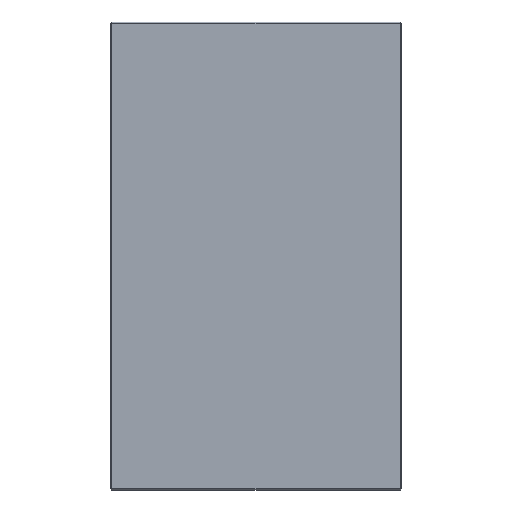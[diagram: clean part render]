
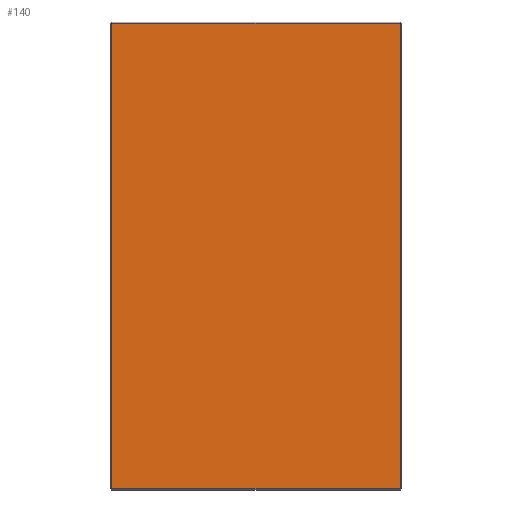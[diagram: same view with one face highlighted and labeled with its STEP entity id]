
A CAD part, front view. The second image highlights one B-rep face of the part: STEP entity #140.
In plain terms, the highlighted planar face has unit normal (0, -1, 0).
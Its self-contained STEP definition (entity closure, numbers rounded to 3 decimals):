
#2 = EDGE_CURVE ( 'NONE', #399, #366, #638, .T. ) ;
#9 = LINE ( 'NONE', #186, #394 ) ;
#10 = DIRECTION ( 'NONE',  ( 0., 0., 1. ) ) ;
#24 = FACE_OUTER_BOUND ( 'NONE', #358, .T. ) ;
#33 = PLANE ( 'NONE',  #517 ) ;
#35 = VERTEX_POINT ( 'NONE', #212 ) ;
#46 = VECTOR ( 'NONE', #10, 1000. ) ;
#47 = CARTESIAN_POINT ( 'NONE',  ( 0., 0., 0. ) ) ;
#70 = LINE ( 'NONE', #437, #171 ) ;
#71 = ORIENTED_EDGE ( 'NONE', *, *, #386, .T. ) ;
#127 = ORIENTED_EDGE ( 'NONE', *, *, #492, .T. ) ;
#129 = DIRECTION ( 'NONE',  ( 1., 0., 0. ) ) ;
#140 = ADVANCED_FACE ( 'NONE', ( #24 ), #33, .F. ) ;
#164 = LINE ( 'NONE', #370, #624 ) ;
#171 = VECTOR ( 'NONE', #129, 1000. ) ;
#186 = CARTESIAN_POINT ( 'NONE',  ( 0., 0., 197. ) ) ;
#207 = DIRECTION ( 'NONE',  ( 0., 0., -1. ) ) ;
#212 = CARTESIAN_POINT ( 'NONE',  ( -122., 0., 197. ) ) ;
#235 = ORIENTED_EDGE ( 'NONE', *, *, #2, .T. ) ;
#319 = EDGE_CURVE ( 'NONE', #35, #555, #164, .T. ) ;
#326 = DIRECTION ( 'NONE',  ( 0., 1., 0. ) ) ;
#331 = CARTESIAN_POINT ( 'NONE',  ( 122., 0., 197. ) ) ;
#336 = DIRECTION ( 'NONE',  ( 0., 0., 1. ) ) ;
#346 = DIRECTION ( 'NONE',  ( -1., 0., 0. ) ) ;
#355 = CARTESIAN_POINT ( 'NONE',  ( 122., 0., 0. ) ) ;
#358 = EDGE_LOOP ( 'NONE', ( #235, #71, #617, #127 ) ) ;
#366 = VERTEX_POINT ( 'NONE', #331 ) ;
#370 = CARTESIAN_POINT ( 'NONE',  ( -122., 0., 0. ) ) ;
#386 = EDGE_CURVE ( 'NONE', #366, #35, #9, .T. ) ;
#394 = VECTOR ( 'NONE', #346, 1000. ) ;
#399 = VERTEX_POINT ( 'NONE', #576 ) ;
#437 = CARTESIAN_POINT ( 'NONE',  ( 0., 0., -197. ) ) ;
#492 = EDGE_CURVE ( 'NONE', #555, #399, #70, .T. ) ;
#517 = AXIS2_PLACEMENT_3D ( 'NONE', #47, #326, #336 ) ;
#528 = CARTESIAN_POINT ( 'NONE',  ( -122., 0., -197. ) ) ;
#555 = VERTEX_POINT ( 'NONE', #528 ) ;
#576 = CARTESIAN_POINT ( 'NONE',  ( 122., 0., -197. ) ) ;
#617 = ORIENTED_EDGE ( 'NONE', *, *, #319, .T. ) ;
#624 = VECTOR ( 'NONE', #207, 1000. ) ;
#638 = LINE ( 'NONE', #355, #46 ) ;
